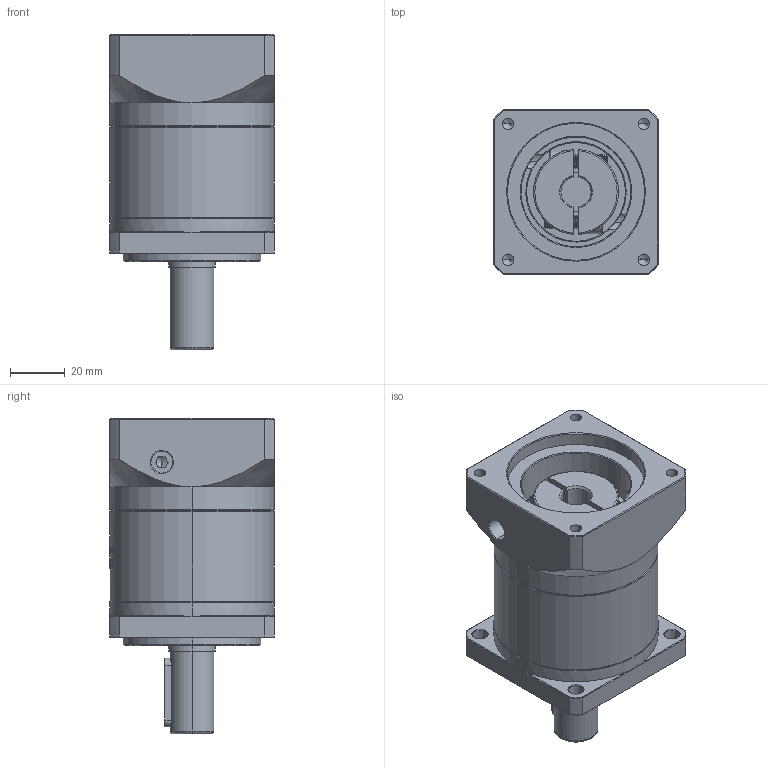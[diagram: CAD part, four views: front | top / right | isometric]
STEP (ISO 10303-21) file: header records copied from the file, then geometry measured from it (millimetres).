
FILE_DESCRIPTION (( 'STEP AP214' ), '1' );
FILE_NAME ('ZF60-D16-L1-11-50-70-M5.STEP', '2022-04-17T11:38:59', ( '' ), ( 'Microsoft' ), 'SwSTEP 2.0', 'SolidWorks 2016', '' );
FILE_SCHEMA (( 'AUTOMOTIVE_DESIGN' ));
Length unit declared in the file: millimetre
Products named in the file (1): ZF60-D16-L1-11-50-70-M5
Bounding box: 60 x 60 x 115 mm (x, y, z)
Volume: 222749.5 mm3; surface area: 43827 mm2
Topology: 6 solids, 6 shells, 1516 faces, 4075 edges, 2635 vertices
Faces by surface type: plane 736, bspline 287, cylinder 239, cone 236, torus 18
Entity records: 79622 total; most frequent: CARTESIAN_POINT 27964, ORIENTED_EDGE 8122, DIRECTION 6141, EDGE_CURVE 4061, VERTEX_POINT 2635, VECTOR 2125, LINE 2125, AXIS2_PLACEMENT_3D 2008
